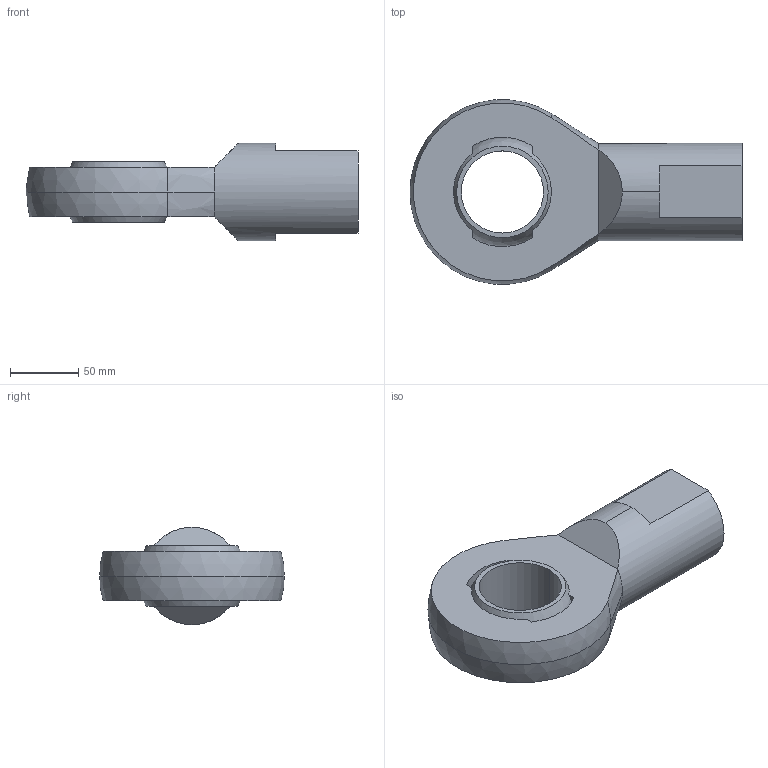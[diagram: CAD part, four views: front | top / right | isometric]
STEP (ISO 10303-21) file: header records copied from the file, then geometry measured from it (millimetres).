
FILE_DESCRIPTION (( 'STEP AP203' ), '1' );
FILE_NAME ('65880.W0161.step', '2014-02-06T18:37:45', ( 'User' ), ( '' ), 'SwSTEP 2.0', 'SolidWorks 2009', '' );
FILE_SCHEMA (( 'CONFIG_CONTROL_DESIGN' ));
Length unit declared in the file: millimetre
Products named in the file (3): 65880.W0161; Part1_65880.W0161; Part2_65880.W0161
Assembly tree (2 placements, depth 2):
  65880.W0161
    Part1_65880.W0161
    Part2_65880.W0161
Bounding box: 242.5 x 134.64 x 71 mm (x, y, z)
Volume: 658908 mm3; surface area: 101399 mm2
Topology: 2 solids, 2 shells, 45 faces, 108 edges, 67 vertices
Faces by surface type: plane 20, cylinder 10, sphere 8, cone 7
Entity records: 1632 total; most frequent: CARTESIAN_POINT 261, DIRECTION 253, ORIENTED_EDGE 208, AXIS2_PLACEMENT_3D 107, EDGE_CURVE 104, VERTEX_POINT 67, CIRCLE 57, EDGE_LOOP 53
